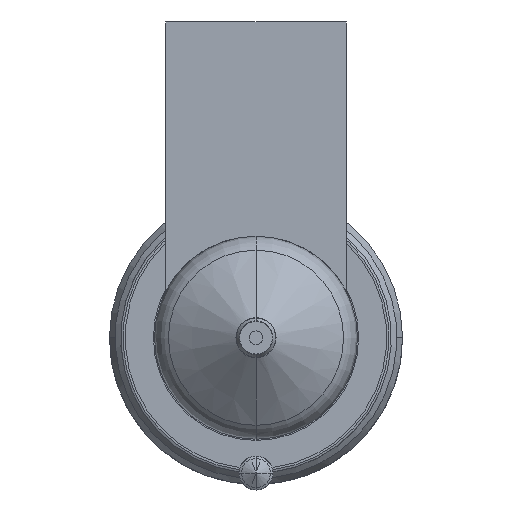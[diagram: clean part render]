
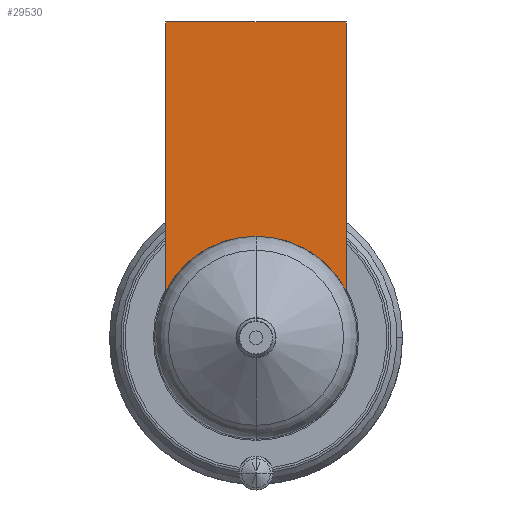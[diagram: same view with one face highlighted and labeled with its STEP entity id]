
A CAD part, front view. The second image highlights one B-rep face of the part: STEP entity #29530.
In plain terms, the highlighted planar face has unit normal (0, -1, 0).
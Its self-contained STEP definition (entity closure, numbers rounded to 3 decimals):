
#28881=DIRECTION('',(1.,0.,0.));
#28882=VECTOR('',#28881,16.);
#28883=CARTESIAN_POINT('',(-8.,-54.,28.));
#28884=LINE('',#28883,#28882);
#28889=CARTESIAN_POINT('',(0.,-54.,0.));
#28890=DIRECTION('',(0.,-1.,0.));
#28891=DIRECTION('',(0.889,0.,0.458));
#28892=AXIS2_PLACEMENT_3D('',#28889,#28890,#28891);
#28897=CARTESIAN_POINT('',(0.,-54.,0.));
#28898=DIRECTION('',(0.,-1.,0.));
#28899=DIRECTION('',(0.,0.,1.));
#28900=AXIS2_PLACEMENT_3D('',#28897,#28898,#28899);
#28926=DIRECTION('',(0.,0.,-1.));
#28927=VECTOR('',#28926,23.877);
#28928=CARTESIAN_POINT('',(-8.,-54.,28.));
#28929=LINE('',#28928,#28927);
#29402=DIRECTION('',(0.,0.,-1.));
#29403=VECTOR('',#29402,23.877);
#29404=CARTESIAN_POINT('',(8.,-54.,28.));
#29405=LINE('',#29404,#29403);
#29455=CARTESIAN_POINT('',(-8.,-54.,28.));
#29456=VERTEX_POINT('',#29455);
#29461=CARTESIAN_POINT('',(8.,-54.,28.));
#29462=VERTEX_POINT('',#29461);
#29465=CARTESIAN_POINT('',(-8.,-54.,4.123));
#29466=VERTEX_POINT('',#29465);
#29469=CARTESIAN_POINT('',(8.,-54.,4.123));
#29470=VERTEX_POINT('',#29469);
#29511=CARTESIAN_POINT('',(0.,-54.,9.));
#29512=VERTEX_POINT('',#29511);
#29513=CARTESIAN_POINT('',(0.,-54.,9.));
#29514=DIRECTION('',(0.,1.,0.));
#29515=DIRECTION('',(0.,0.,-1.));
#29516=AXIS2_PLACEMENT_3D('',#29513,#29514,#29515);
#29517=PLANE('',#29516);
#29519=ORIENTED_EDGE('',*,*,#29518,.F.);
#29521=ORIENTED_EDGE('',*,*,#29520,.T.);
#29523=ORIENTED_EDGE('',*,*,#29522,.T.);
#29525=ORIENTED_EDGE('',*,*,#29524,.T.);
#29527=ORIENTED_EDGE('',*,*,#29526,.T.);
#29528=EDGE_LOOP('',(#29519,#29521,#29523,#29525,#29527));
#29529=FACE_OUTER_BOUND('',#29528,.F.);
#29530=ADVANCED_FACE('',(#29529),#29517,.F.);
#28893=CIRCLE('',#28892,9.);
#28901=CIRCLE('',#28900,9.);
#29518=EDGE_CURVE('',#29456,#29466,#28929,.T.);
#29520=EDGE_CURVE('',#29456,#29462,#28884,.T.);
#29522=EDGE_CURVE('',#29462,#29470,#29405,.T.);
#29524=EDGE_CURVE('',#29470,#29512,#28893,.T.);
#29526=EDGE_CURVE('',#29512,#29466,#28901,.T.);
